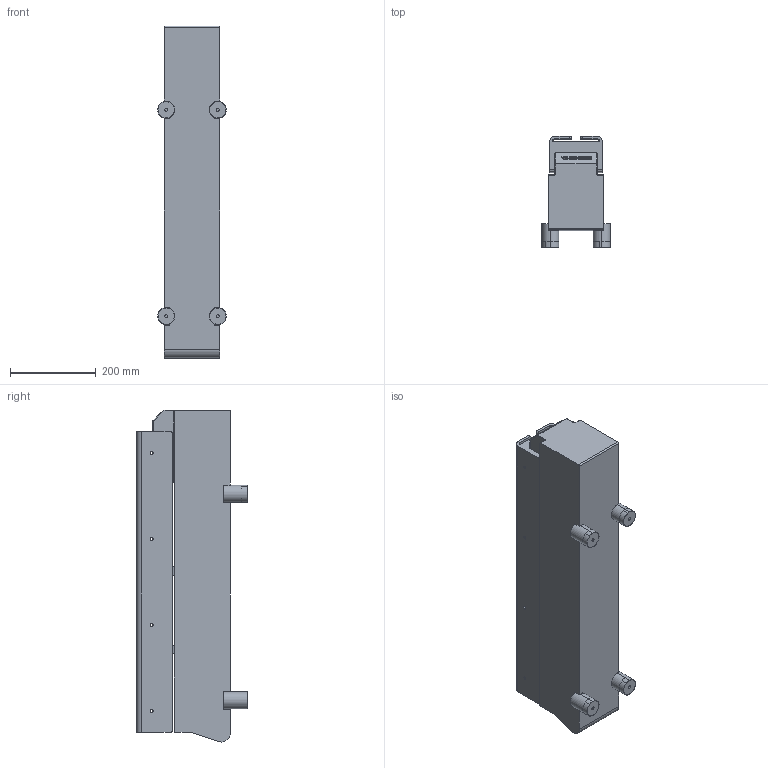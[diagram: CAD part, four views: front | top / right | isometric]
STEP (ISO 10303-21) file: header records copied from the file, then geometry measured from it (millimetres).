
FILE_DESCRIPTION (( 'STEP AP203' ), '1' );
FILE_NAME ('HD-SX700妗极3D.STEP', '2026-06-12T00:25:42', ( 'Windows 蚚誧' ), ( '' ), 'SwSTEP 2.0', 'SolidWorks 2024', '' );
FILE_SCHEMA (( 'CONFIG_CONTROL_DESIGN' ));
Length unit declared in the file: millimetre
Products named in the file (1): HD-SX700实体3D
Bounding box: 160 x 258 x 772.25 mm (x, y, z)
Volume: 19803504.6 mm3; surface area: 926770.6 mm2
Topology: 9 solids, 9 shells, 663 faces, 1822 edges, 1206 vertices
Faces by surface type: plane 298, cylinder 257, bspline 82, sphere 24, torus 2
Entity records: 31126 total; most frequent: CARTESIAN_POINT 15017, ORIENTED_EDGE 3644, DIRECTION 3004, EDGE_CURVE 1822, VERTEX_POINT 1206, AXIS2_PLACEMENT_3D 1016, LINE 972, VECTOR 972
